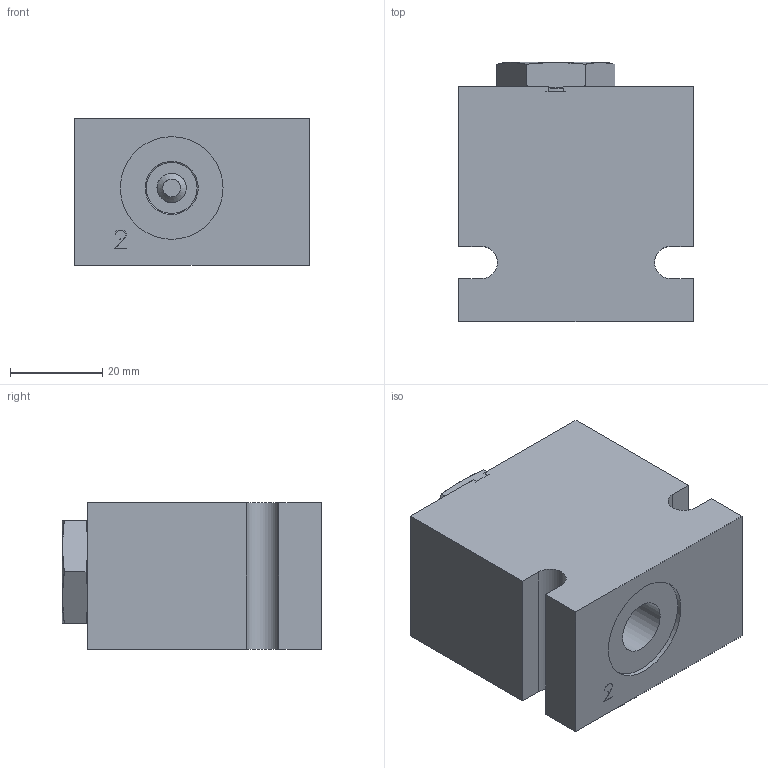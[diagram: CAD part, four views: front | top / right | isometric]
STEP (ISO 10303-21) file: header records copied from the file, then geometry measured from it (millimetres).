
FILE_DESCRIPTION( ( 'Unknown' ), '1' );
FILE_NAME( 'G:/Graphic Design/Graphic Design 2/Data Sheets/MANUAL_MECH OPERATED VALVES/4_STEP/Direct Acting Check Valves/D-HBCVA00-A2.stp', 'Unknown', ( 'Unknown' ), ( 'Unknown' ), 'PSStep 16.0.42', 'Unknown', ' ' );
FILE_SCHEMA( ( 'AUTOMOTIVE_DESIGN { 1 0 10303 214 1 1 1 1 }' ) );
Length unit declared in the file: millimetre
Products named in the file (8): HBCVA00; Part134; Part136; Part138; Part140; Assem1; B-DPBA2
Assembly tree (7 placements, depth 3):
  Assem1
    B-DPBA2
    HBCVA00
      Part134
      Part136
      Part138
      Part140
      Part140
Bounding box: 50.8 x 56.18 x 31.75 mm (x, y, z)
Surface area: 19505.9 mm2 (no closed solid volume)
Topology: 0 solids, 182 shells, 182 faces, 804 edges, 736 vertices
Faces by surface type: plane 82, cylinder 47, cone 44, torus 9
Full cylindrical faces by diameter (mm): 0.2 x2, 3.569 x6, 6.35 x1, 7.137 x1, 8.395 x1, 9.411 x1, 9.53 x1, 9.855 x2, 10.16 x1, 10.5 x1, 11 x1, 11.5 x4, 12.548 x1, 12.624 x2, 12.7 x1, 13.78 x2, 14.732 x2, 15.824 x2, 16.751 x1, 17.33 x2, 22.22 x2, 22.225 x1
Entity records: 12377 total; most frequent: CARTESIAN_POINT 5605, DIRECTION 886, VERTEX_POINT 714, ORIENTED_EDGE 712, EDGE_CURVE 712, B_SPLINE_CURVE_WITH_KNOTS 381, AXIS2_PLACEMENT_3D 364, FACE_BOUND 280
